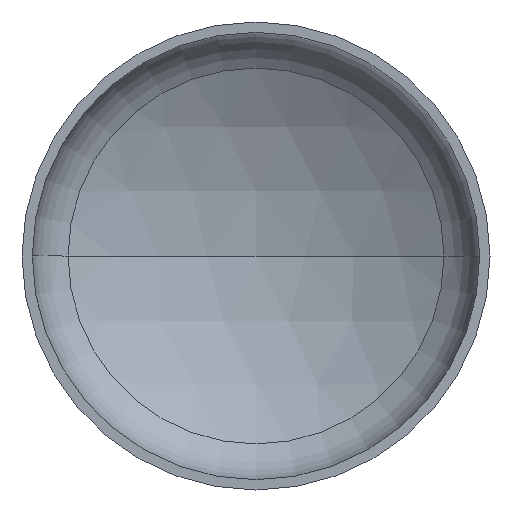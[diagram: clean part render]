
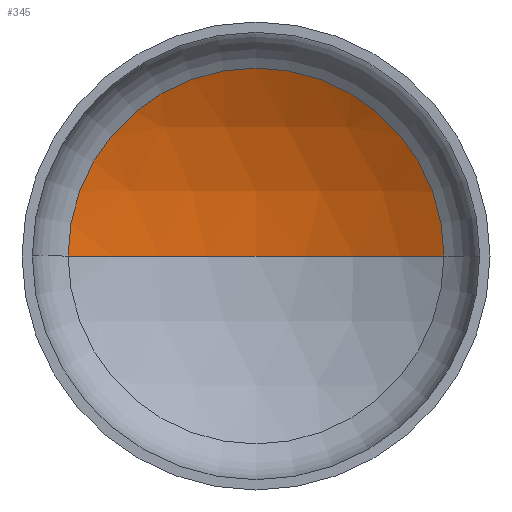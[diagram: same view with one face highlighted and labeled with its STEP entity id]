
A CAD part, front view. The second image highlights one B-rep face of the part: STEP entity #345.
In plain terms, the highlighted spherical face has radius 218 mm.
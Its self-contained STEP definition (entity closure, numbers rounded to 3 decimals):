
#7 = EDGE_LOOP ( 'NONE', ( #86, #43, #49 ) ) ;
#18 = CARTESIAN_POINT ( 'NONE',  ( 0., 56.304, 0. ) ) ;
#36 = AXIS2_PLACEMENT_3D ( 'NONE', #110, #139, #159 ) ;
#43 = ORIENTED_EDGE ( 'NONE', *, *, #204, .T. ) ;
#49 = ORIENTED_EDGE ( 'NONE', *, *, #201, .T. ) ;
#63 = VERTEX_POINT ( 'NONE', #259 ) ;
#75 = FACE_OUTER_BOUND ( 'NONE', #7, .T. ) ;
#86 = ORIENTED_EDGE ( 'NONE', *, *, #207, .F. ) ;
#89 = VERTEX_POINT ( 'NONE', #262 ) ;
#110 = CARTESIAN_POINT ( 'NONE',  ( 0., -132.131, 0. ) ) ;
#118 = AXIS2_PLACEMENT_3D ( 'NONE', #273, #297, #296 ) ;
#127 = AXIS2_PLACEMENT_3D ( 'NONE', #335, #189, #209 ) ;
#129 = AXIS2_PLACEMENT_3D ( 'NONE', #18, #379, #240 ) ;
#139 = DIRECTION ( 'NONE',  ( 0., 0., -1. ) ) ;
#143 = CIRCLE ( 'NONE', #129, 109.619 ) ;
#159 = DIRECTION ( 'NONE',  ( -1., 0., 0. ) ) ;
#183 = VERTEX_POINT ( 'NONE', #359 ) ;
#189 = DIRECTION ( 'NONE',  ( 0., 0., -1. ) ) ;
#201 = EDGE_CURVE ( 'NONE', #63, #89, #143, .T. ) ;
#204 = EDGE_CURVE ( 'NONE', #183, #63, #398, .T. ) ;
#207 = EDGE_CURVE ( 'NONE', #183, #89, #390, .T. ) ;
#209 = DIRECTION ( 'NONE',  ( -1., 0., 0. ) ) ;
#240 = DIRECTION ( 'NONE',  ( 1., 0., 0. ) ) ;
#259 = CARTESIAN_POINT ( 'NONE',  ( 109.619, 56.304, 0. ) ) ;
#262 = CARTESIAN_POINT ( 'NONE',  ( -109.619, 56.304, 0. ) ) ;
#273 = CARTESIAN_POINT ( 'NONE',  ( 0., -132.131, 0. ) ) ;
#296 = DIRECTION ( 'NONE',  ( 1., 0., 0. ) ) ;
#297 = DIRECTION ( 'NONE',  ( 0., 0., 1. ) ) ;
#320 = SPHERICAL_SURFACE ( 'NONE', #36, 218. ) ;
#335 = CARTESIAN_POINT ( 'NONE',  ( 0., -132.131, 0. ) ) ;
#345 = ADVANCED_FACE ( 'NONE', ( #75 ), #320, .F. ) ;
#359 = CARTESIAN_POINT ( 'NONE',  ( 0., 85.869, 0. ) ) ;
#379 = DIRECTION ( 'NONE',  ( 0., -1., 0. ) ) ;
#390 = CIRCLE ( 'NONE', #118, 218. ) ;
#398 = CIRCLE ( 'NONE', #127, 218. ) ;
